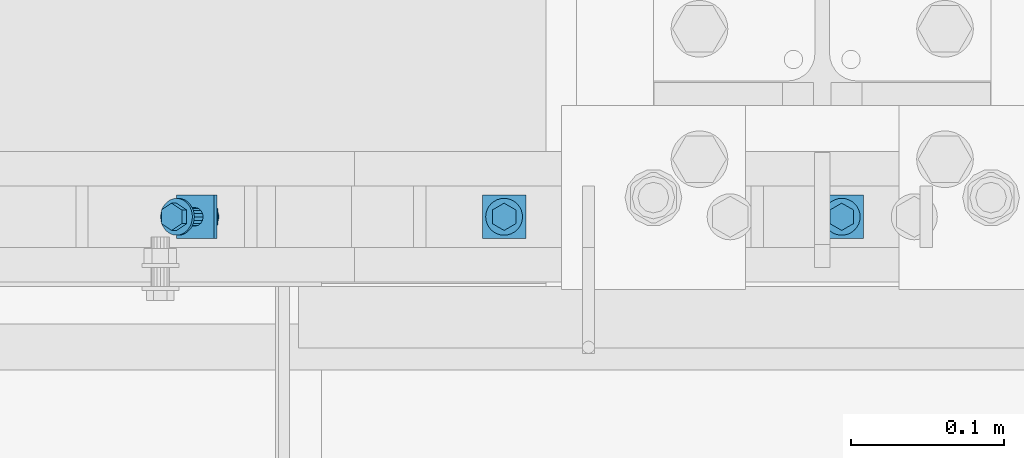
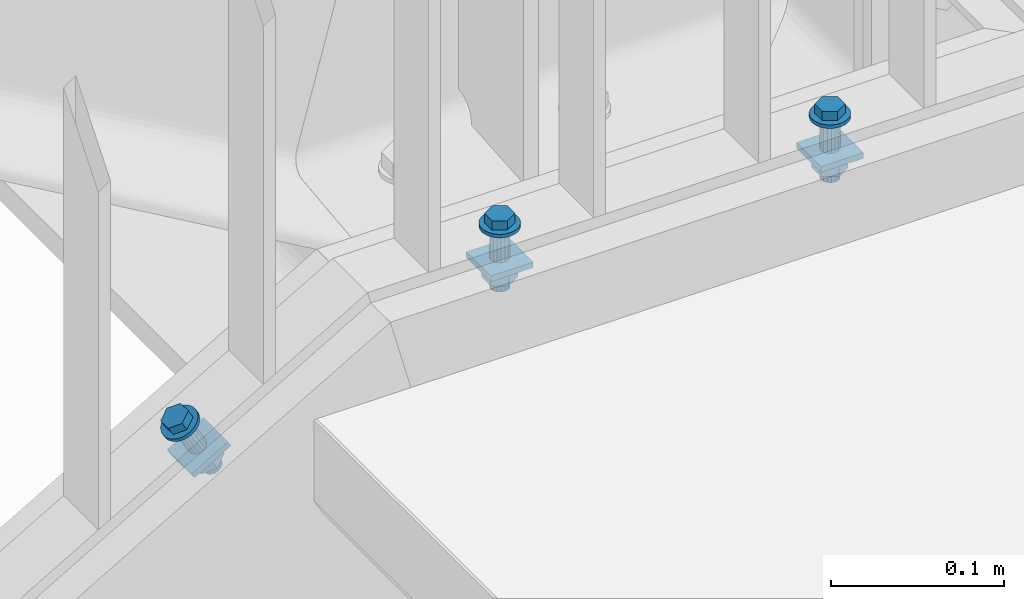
# One storey, part 107 of 145: 3 mechanical fasteners.
"""IFC2X3 building model written with IfcOpenShell, lengths in millimetres."""

from ifc_helpers import new_model, entity, si_unit, converted_unit, origin_with_axes, place, context, project, spatial, faceted_brep, element, save


model = new_model("IFC2X3")

# Units and contexts
model_context = context("Model", 3, precision=1e-09, world=origin_with_axes())
ifc_project = project(units=[si_unit("LENGTHUNIT", "METRE", prefix="MILLI"), si_unit("AREAUNIT", "SQUARE_METRE"), si_unit("VOLUMEUNIT", "CUBIC_METRE"), converted_unit("PLANEANGLEUNIT", "DEGREE", entity("IfcPlaneAngleMeasure", 0.01745329), si_unit("PLANEANGLEUNIT", "RADIAN"), dimensions=[0, 0, 0, 0, 0, 0, 0])], contexts=[model_context])

# Site, building, storey
site_placement = place(None, origin_with_axes())
site = spatial("IfcSite", under=ifc_project, at=site_placement, Name="BZ1 Grund- und Mittelschule 85716 Unterschlei?heim", CompositionType="ELEMENT")
building_placement = place(site_placement, origin_with_axes())
building = spatial("IfcBuilding", under=site, at=building_placement, Name="Struktur 1", CompositionType="ELEMENT")
storey_placement = place(building_placement, origin_with_axes())
storey = spatial("IfcBuildingStorey", under=building, at=storey_placement, Name="Default Storey", CompositionType="ELEMENT", Elevation=0.0)

# Mechanical fasteners
mechanical_fastener_1_placement = place(None, origin_with_axes())
element("IfcMechanicalFastener", 1, at=mechanical_fastener_1_placement, inside=storey, ObjectType="-", NominalDiameter=12.0, NominalLength=45.0, context=model_context, shape_type="Brep", body=[
    faceted_brep([(19780.951508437, -1877.502, 1550.095437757), (19779.694780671, -1877.502, 1552.256603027), (19779.894106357, -1875.160916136, 1552.372511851), (19781.150834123, -1875.160916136, 1550.211346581), (19780.484423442, -1872.909798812, 1552.715784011), (19781.741151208, -1872.909798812, 1550.554618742), (19781.44304637, -1870.835157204, 1553.273227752), (19782.699774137, -1870.835157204, 1551.112062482), (19782.733135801, -1869.016718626, 1554.023420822), (19783.989863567, -1869.016718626, 1551.862255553), (19784.305114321, -1867.524364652, 1554.937533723), (19785.561842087, -1867.524364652, 1552.776368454), (19786.098571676, -1866.41544561, 1555.980437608), (19787.355299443, -1866.41544561, 1553.819272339), (19788.044586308, -1865.732576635, 1557.112054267), (19789.301314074, -1865.732576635, 1554.950888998), (19790.068373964, -1865.502, 1558.288896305), (19791.32510173, -1865.502, 1556.127731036), (19792.092161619, -1865.732576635, 1559.465738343), (19793.348889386, -1865.732576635, 1557.304573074), (19794.038176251, -1866.41544561, 1560.597355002), (19795.294904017, -1866.41544561, 1558.436189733), (19795.831633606, -1867.524364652, 1561.640258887), (19797.088361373, -1867.524364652, 1559.479093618), (19797.403612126, -1869.016718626, 1562.554371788), (19798.660339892, -1869.016718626, 1560.393206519), (19798.693701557, -1870.835157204, 1563.304564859), (19799.950429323, -1870.835157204, 1561.143399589), (19799.652324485, -1872.909798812, 1563.862008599), (19800.909052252, -1872.909798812, 1561.70084333), (19800.24264157, -1875.160916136, 1564.20528076), (19801.499369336, -1875.160916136, 1562.04411549), (19800.441967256, -1877.502, 1564.321189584), (19801.698695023, -1877.502, 1562.160024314), (19800.24264157, -1879.843083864, 1564.20528076), (19801.499369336, -1879.843083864, 1562.04411549), (19799.652324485, -1882.094201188, 1563.862008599), (19800.909052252, -1882.094201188, 1561.70084333), (19798.693701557, -1884.168842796, 1563.304564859), (19799.950429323, -1884.168842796, 1561.143399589), (19797.403612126, -1885.987281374, 1562.554371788), (19798.660339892, -1885.987281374, 1560.393206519), (19795.831633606, -1887.479635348, 1561.640258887), (19797.088361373, -1887.479635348, 1559.479093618), (19794.038176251, -1888.58855439, 1560.597355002), (19795.294904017, -1888.58855439, 1558.436189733), (19792.092161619, -1889.271423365, 1559.465738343), (19793.348889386, -1889.271423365, 1557.304573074), (19790.068373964, -1889.502, 1558.288896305), (19791.32510173, -1889.502, 1556.127731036), (19788.044586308, -1889.271423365, 1557.112054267), (19789.301314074, -1889.271423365, 1554.950888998), (19786.098571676, -1888.58855439, 1555.980437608), (19787.355299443, -1888.58855439, 1553.819272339), (19784.305114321, -1887.479635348, 1554.937533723), (19785.561842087, -1887.479635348, 1552.776368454), (19782.733135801, -1885.987281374, 1554.023420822), (19783.989863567, -1885.987281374, 1551.862255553), (19781.44304637, -1884.168842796, 1553.273227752), (19782.699774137, -1884.168842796, 1551.112062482), (19780.484423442, -1882.094201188, 1552.715784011), (19781.741151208, -1882.094201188, 1550.554618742), (19779.894106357, -1879.843083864, 1552.372511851), (19781.150834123, -1879.843083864, 1550.211346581)], [[[0, 1, 2, 3]], [[3, 2, 4, 5]], [[5, 4, 6, 7]], [[7, 6, 8, 9]], [[9, 8, 10, 11]], [[11, 10, 12, 13]], [[13, 12, 14, 15]], [[15, 14, 16, 17]], [[17, 16, 18, 19]], [[19, 18, 20, 21]], [[21, 20, 22, 23]], [[23, 22, 24, 25]], [[25, 24, 26, 27]], [[27, 26, 28, 29]], [[29, 28, 30, 31]], [[31, 30, 32, 33]], [[33, 32, 34, 35]], [[35, 34, 36, 37]], [[37, 36, 38, 39]], [[39, 38, 40, 41]], [[41, 40, 42, 43]], [[43, 42, 44, 45]], [[45, 44, 46, 47]], [[47, 46, 48, 49]], [[49, 48, 50, 51]], [[51, 50, 52, 53]], [[53, 52, 54, 55]], [[55, 54, 56, 57]], [[57, 56, 58, 59]], [[59, 58, 60, 61]], [[61, 60, 62, 63]], [[63, 62, 1, 0]], [[2, 1, 62, 60, 58, 56, 54, 52, 50, 48, 46, 44, 42, 40, 38, 36, 34, 32, 30, 28, 26, 24, 22, 20, 18, 16, 14, 12, 10, 8, 6, 4]], [[63, 0, 3, 5, 7, 9, 11, 13, 15, 17, 19, 21, 23, 25, 27, 29, 31, 33, 35, 37, 39, 41, 43, 45, 47, 49, 51, 53, 55, 57, 59, 61]]]),
    faceted_brep([(19793.502902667, -1873.0595, 1567.689504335), (19796.720125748, -1873.0595, 1562.156921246), (19790.068373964, -1868.617, 1558.288896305), (19786.851150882, -1868.617, 1563.821479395), (19783.416622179, -1873.0595, 1554.420871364), (19780.199399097, -1873.0595, 1559.953454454), (19783.416622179, -1881.9445, 1554.420871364), (19780.199399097, -1881.9445, 1559.953454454), (19790.068373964, -1886.387, 1558.288896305), (19786.851150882, -1886.387, 1563.821479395), (19796.720125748, -1881.9445, 1562.156921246), (19793.502902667, -1881.9445, 1567.689504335)], [[[0, 1, 2, 3]], [[3, 2, 4, 5]], [[5, 4, 6, 7]], [[7, 6, 8, 9]], [[9, 8, 10, 11]], [[11, 10, 1, 0]], [[3, 5, 7, 9, 11, 0]], [[2, 1, 10, 8, 6, 4]]]),
    faceted_brep([(19797.038066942, -1877.502, 1534.367519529), (19786.138305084, -1877.502, 1553.111584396), (19786.533126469, -1875.205899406, 1553.341174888), (19797.432888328, -1875.205899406, 1534.597110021), (19787.657482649, -1873.259359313, 1553.994993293), (19798.557244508, -1873.259359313, 1535.250928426), (19789.340200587, -1871.958722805, 1554.973501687), (19800.239962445, -1871.958722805, 1536.229436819), (19791.32510173, -1871.502, 1556.127731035), (19802.224863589, -1871.502, 1537.383666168), (19793.310002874, -1871.958722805, 1557.281960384), (19804.209764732, -1871.958722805, 1538.537895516), (19794.992720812, -1873.259359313, 1558.260468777), (19805.89248267, -1873.259359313, 1539.516403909), (19796.117076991, -1875.205899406, 1558.914287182), (19807.01683885, -1875.205899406, 1540.170222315), (19796.511898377, -1877.502, 1559.143877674), (19807.411660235, -1877.502, 1540.399812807), (19796.117076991, -1879.798100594, 1558.914287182), (19807.01683885, -1879.798100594, 1540.170222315), (19794.992720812, -1881.744640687, 1558.260468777), (19805.89248267, -1881.744640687, 1539.516403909), (19793.310002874, -1883.045277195, 1557.281960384), (19804.209764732, -1883.045277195, 1538.537895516), (19791.32510173, -1883.502, 1556.127731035), (19802.224863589, -1883.502, 1537.383666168), (19789.340200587, -1883.045277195, 1554.973501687), (19800.239962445, -1883.045277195, 1536.229436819), (19787.657482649, -1881.744640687, 1553.994993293), (19798.557244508, -1881.744640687, 1535.250928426), (19786.533126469, -1879.798100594, 1553.341174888), (19797.432888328, -1879.798100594, 1534.597110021)], [[[0, 1, 2, 3]], [[3, 2, 4, 5]], [[5, 4, 6, 7]], [[7, 6, 8, 9]], [[9, 8, 10, 11]], [[11, 10, 12, 13]], [[13, 12, 14, 15]], [[15, 14, 16, 17]], [[17, 16, 18, 19]], [[19, 18, 20, 21]], [[21, 20, 22, 23]], [[23, 22, 24, 25]], [[25, 24, 26, 27]], [[27, 26, 28, 29]], [[29, 28, 30, 31]], [[31, 30, 1, 0]], [[2, 1, 30, 28, 26, 24, 22, 20, 18, 16, 14, 12, 10, 8, 6, 4]], [[31, 0, 3, 5, 7, 9, 11, 13, 15, 17, 19, 21, 23, 25, 27, 29]]]),
    faceted_brep([(19814.450260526, -1863.359864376, 1544.492791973), (19816.461024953, -1863.359864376, 1541.034927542), (19792.010231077, -1863.359864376, 1526.816675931), (19789.999466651, -1863.359864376, 1530.274540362), (19792.010231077, -1891.644135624, 1526.816675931), (19789.999466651, -1891.644135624, 1530.274540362), (19816.461024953, -1891.644135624, 1541.034927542), (19814.450260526, -1891.644135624, 1544.492791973)], [[[0, 1, 2, 3]], [[3, 2, 4, 5]], [[5, 4, 6, 7]], [[7, 6, 1, 0]], [[3, 5, 7, 0]], [[2, 1, 6, 4]]]),
    faceted_brep([(19812.1338814, -1872.227, 1538.51867322), (19817.160792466, -1872.227, 1529.874012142), (19809.26253908, -1866.952, 1525.28114066), (19804.235628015, -1866.952, 1533.925801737), (19801.364285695, -1872.227, 1520.688269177), (19796.337374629, -1872.227, 1529.332930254), (19801.364285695, -1882.777, 1520.688269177), (19796.337374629, -1882.777, 1529.332930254), (19809.26253908, -1888.052, 1525.28114066), (19804.235628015, -1888.052, 1533.925801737), (19817.160792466, -1882.777, 1529.874012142), (19812.1338814, -1882.777, 1538.51867322)], [[[0, 1, 2, 3]], [[3, 2, 4, 5]], [[5, 4, 6, 7]], [[7, 6, 8, 9]], [[9, 8, 10, 11]], [[11, 10, 1, 0]], [[3, 5, 7, 9, 11, 0]], [[2, 1, 10, 8, 6, 4]]]),
    faceted_brep([(19807.502677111, -1877.502, 1516.371774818), (19804.075742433, -1877.502, 1522.264994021), (19804.470563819, -1875.205899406, 1522.494584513), (19807.897498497, -1875.205899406, 1516.60136531), (19805.594919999, -1873.259359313, 1523.148402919), (19809.021854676, -1873.259359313, 1517.255183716), (19807.277637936, -1871.958722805, 1524.126911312), (19810.704572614, -1871.958722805, 1518.233692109), (19809.26253908, -1871.502, 1525.28114066), (19812.689473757, -1871.502, 1519.387921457), (19811.247440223, -1871.958722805, 1526.435370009), (19814.674374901, -1871.958722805, 1520.542150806), (19812.930158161, -1873.259359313, 1527.413878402), (19816.357092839, -1873.259359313, 1521.520659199), (19814.054514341, -1875.205899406, 1528.067696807), (19817.481449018, -1875.205899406, 1522.174477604), (19814.449335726, -1877.502, 1528.2972873), (19817.876270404, -1877.502, 1522.404068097), (19814.054514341, -1879.798100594, 1528.067696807), (19817.481449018, -1879.798100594, 1522.174477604), (19812.930158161, -1881.744640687, 1527.413878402), (19816.357092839, -1881.744640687, 1521.520659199), (19811.247440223, -1883.045277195, 1526.435370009), (19814.674374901, -1883.045277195, 1520.542150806), (19809.26253908, -1883.502, 1525.28114066), (19812.689473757, -1883.502, 1519.387921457), (19807.277637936, -1883.045277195, 1524.126911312), (19810.704572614, -1883.045277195, 1518.233692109), (19805.594919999, -1881.744640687, 1523.148402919), (19809.021854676, -1881.744640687, 1517.255183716), (19804.470563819, -1879.798100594, 1522.494584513), (19807.897498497, -1879.798100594, 1516.60136531)], [[[0, 1, 2, 3]], [[3, 2, 4, 5]], [[5, 4, 6, 7]], [[7, 6, 8, 9]], [[9, 8, 10, 11]], [[11, 10, 12, 13]], [[13, 12, 14, 15]], [[15, 14, 16, 17]], [[17, 16, 18, 19]], [[19, 18, 20, 21]], [[21, 20, 22, 23]], [[23, 22, 24, 25]], [[25, 24, 26, 27]], [[27, 26, 28, 29]], [[29, 28, 30, 31]], [[31, 30, 1, 0]], [[2, 1, 30, 28, 26, 24, 22, 20, 18, 16, 14, 12, 10, 8, 6, 4]], [[31, 0, 3, 5, 7, 9, 11, 13, 15, 17, 19, 21, 23, 25, 27, 29]]]),
])
mechanical_fastener_2_placement = place(None, origin_with_axes())
element("IfcMechanicalFastener", 2, at=mechanical_fastener_2_placement, inside=storey, ObjectType="-", NominalDiameter=12.0, NominalLength=45.0, context=model_context, shape_type="Brep", body=[
    faceted_brep([(19991.545893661, -1877.502, 1621.636364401), (19991.545893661, -1877.502, 1624.136364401), (19991.776470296, -1875.160916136, 1624.136364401), (19991.776470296, -1875.160916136, 1621.636364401), (19992.459339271, -1872.909798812, 1624.136364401), (19992.459339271, -1872.909798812, 1621.636364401), (19993.568258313, -1870.835157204, 1624.136364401), (19993.568258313, -1870.835157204, 1621.636364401), (19995.060612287, -1869.016718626, 1624.136364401), (19995.060612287, -1869.016718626, 1621.636364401), (19996.879050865, -1867.524364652, 1624.136364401), (19996.879050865, -1867.524364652, 1621.636364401), (19998.953692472, -1866.41544561, 1624.136364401), (19998.953692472, -1866.41544561, 1621.636364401), (20001.204809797, -1865.732576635, 1624.136364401), (20001.204809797, -1865.732576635, 1621.636364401), (20003.545893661, -1865.502, 1624.136364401), (20003.545893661, -1865.502, 1621.636364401), (20005.886977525, -1865.732576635, 1624.136364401), (20005.886977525, -1865.732576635, 1621.636364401), (20008.138094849, -1866.41544561, 1624.136364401), (20008.138094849, -1866.41544561, 1621.636364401), (20010.212736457, -1867.524364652, 1624.136364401), (20010.212736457, -1867.524364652, 1621.636364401), (20012.031175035, -1869.016718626, 1624.136364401), (20012.031175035, -1869.016718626, 1621.636364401), (20013.523529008, -1870.835157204, 1624.136364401), (20013.523529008, -1870.835157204, 1621.636364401), (20014.632448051, -1872.909798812, 1624.136364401), (20014.632448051, -1872.909798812, 1621.636364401), (20015.315317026, -1875.160916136, 1624.136364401), (20015.315317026, -1875.160916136, 1621.636364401), (20015.545893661, -1877.502, 1624.136364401), (20015.545893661, -1877.502, 1621.636364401), (20015.315317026, -1879.843083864, 1624.136364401), (20015.315317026, -1879.843083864, 1621.636364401), (20014.632448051, -1882.094201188, 1624.136364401), (20014.632448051, -1882.094201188, 1621.636364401), (20013.523529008, -1884.168842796, 1624.136364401), (20013.523529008, -1884.168842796, 1621.636364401), (20012.031175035, -1885.987281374, 1624.136364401), (20012.031175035, -1885.987281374, 1621.636364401), (20010.212736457, -1887.479635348, 1624.136364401), (20010.212736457, -1887.479635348, 1621.636364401), (20008.138094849, -1888.58855439, 1624.136364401), (20008.138094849, -1888.58855439, 1621.636364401), (20005.886977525, -1889.271423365, 1624.136364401), (20005.886977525, -1889.271423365, 1621.636364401), (20003.545893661, -1889.502, 1624.136364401), (20003.545893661, -1889.502, 1621.636364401), (20001.204809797, -1889.271423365, 1624.136364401), (20001.204809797, -1889.271423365, 1621.636364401), (19998.953692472, -1888.58855439, 1624.136364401), (19998.953692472, -1888.58855439, 1621.636364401), (19996.879050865, -1887.479635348, 1624.136364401), (19996.879050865, -1887.479635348, 1621.636364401), (19995.060612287, -1885.987281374, 1624.136364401), (19995.060612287, -1885.987281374, 1621.636364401), (19993.568258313, -1884.168842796, 1624.136364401), (19993.568258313, -1884.168842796, 1621.636364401), (19992.459339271, -1882.094201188, 1624.136364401), (19992.459339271, -1882.094201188, 1621.636364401), (19991.776470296, -1879.843083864, 1624.136364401), (19991.776470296, -1879.843083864, 1621.636364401)], [[[0, 1, 2, 3]], [[3, 2, 4, 5]], [[5, 4, 6, 7]], [[7, 6, 8, 9]], [[9, 8, 10, 11]], [[11, 10, 12, 13]], [[13, 12, 14, 15]], [[15, 14, 16, 17]], [[17, 16, 18, 19]], [[19, 18, 20, 21]], [[21, 20, 22, 23]], [[23, 22, 24, 25]], [[25, 24, 26, 27]], [[27, 26, 28, 29]], [[29, 28, 30, 31]], [[31, 30, 32, 33]], [[33, 32, 34, 35]], [[35, 34, 36, 37]], [[37, 36, 38, 39]], [[39, 38, 40, 41]], [[41, 40, 42, 43]], [[43, 42, 44, 45]], [[45, 44, 46, 47]], [[47, 46, 48, 49]], [[49, 48, 50, 51]], [[51, 50, 52, 53]], [[53, 52, 54, 55]], [[55, 54, 56, 57]], [[57, 56, 58, 59]], [[59, 58, 60, 61]], [[61, 60, 62, 63]], [[63, 62, 1, 0]], [[2, 1, 62, 60, 58, 56, 54, 52, 50, 48, 46, 44, 42, 40, 38, 36, 34, 32, 30, 28, 26, 24, 22, 20, 18, 16, 14, 12, 10, 8, 6, 4]], [[63, 0, 3, 5, 7, 9, 11, 13, 15, 17, 19, 21, 23, 25, 27, 29, 31, 33, 35, 37, 39, 41, 43, 45, 47, 49, 51, 53, 55, 57, 59, 61]]]),
    faceted_brep([(20011.240529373, -1873.0595, 1630.536364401), (20011.240529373, -1873.0595, 1624.136364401), (20003.545893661, -1868.617, 1624.136364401), (20003.545893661, -1868.617, 1630.536364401), (19995.851257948, -1873.0595, 1624.136364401), (19995.851257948, -1873.0595, 1630.536364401), (19995.851257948, -1881.9445, 1624.136364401), (19995.851257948, -1881.9445, 1630.536364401), (20003.545893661, -1886.387, 1624.136364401), (20003.545893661, -1886.387, 1630.536364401), (20011.240529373, -1881.9445, 1624.136364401), (20011.240529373, -1881.9445, 1630.536364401)], [[[0, 1, 2, 3]], [[3, 2, 4, 5]], [[5, 4, 6, 7]], [[7, 6, 8, 9]], [[9, 8, 10, 11]], [[11, 10, 1, 0]], [[3, 5, 7, 9, 11, 0]], [[2, 1, 10, 8, 6, 4]]]),
    faceted_brep([(19997.545893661, -1877.502, 1599.833658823), (19997.545893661, -1877.502, 1621.636364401), (19998.002616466, -1875.205899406, 1621.636364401), (19998.002616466, -1875.205899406, 1599.833658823), (19999.303252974, -1873.259359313, 1621.636364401), (19999.303252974, -1873.259359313, 1599.833658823), (20001.249793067, -1871.958722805, 1621.636364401), (20001.249793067, -1871.958722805, 1599.833658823), (20003.545893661, -1871.502, 1621.636364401), (20003.545893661, -1871.502, 1599.833658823), (20005.841994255, -1871.958722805, 1621.636364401), (20005.841994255, -1871.958722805, 1599.833658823), (20007.788534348, -1873.259359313, 1621.636364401), (20007.788534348, -1873.259359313, 1599.833658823), (20009.089170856, -1875.205899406, 1621.636364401), (20009.089170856, -1875.205899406, 1599.833658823), (20009.545893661, -1877.502, 1621.636364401), (20009.545893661, -1877.502, 1599.833658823), (20009.089170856, -1879.798100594, 1621.636364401), (20009.089170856, -1879.798100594, 1599.833658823), (20007.788534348, -1881.744640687, 1621.636364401), (20007.788534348, -1881.744640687, 1599.833658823), (20005.841994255, -1883.045277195, 1621.636364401), (20005.841994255, -1883.045277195, 1599.833658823), (20003.545893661, -1883.502, 1621.636364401), (20003.545893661, -1883.502, 1599.833658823), (20001.249793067, -1883.045277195, 1621.636364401), (20001.249793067, -1883.045277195, 1599.833658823), (19999.303252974, -1881.744640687, 1621.636364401), (19999.303252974, -1881.744640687, 1599.833658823), (19998.002616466, -1879.798100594, 1621.636364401), (19998.002616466, -1879.798100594, 1599.833658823)], [[[0, 1, 2, 3]], [[3, 2, 4, 5]], [[5, 4, 6, 7]], [[7, 6, 8, 9]], [[9, 8, 10, 11]], [[11, 10, 12, 13]], [[13, 12, 14, 15]], [[15, 14, 16, 17]], [[17, 16, 18, 19]], [[19, 18, 20, 21]], [[21, 20, 22, 23]], [[23, 22, 24, 25]], [[25, 24, 26, 27]], [[27, 26, 28, 29]], [[29, 28, 30, 31]], [[31, 30, 1, 0]], [[2, 1, 30, 28, 26, 24, 22, 20, 18, 16, 14, 12, 10, 8, 6, 4]], [[31, 0, 3, 5, 7, 9, 11, 13, 15, 17, 19, 21, 23, 25, 27, 29]]]),
    faceted_brep([(20017.688029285, -1863.359864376, 1599.833658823), (20017.688029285, -1863.359864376, 1595.833658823), (19989.403758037, -1863.359864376, 1595.833658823), (19989.403758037, -1863.359864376, 1599.833658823), (19989.403758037, -1891.644135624, 1595.833658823), (19989.403758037, -1891.644135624, 1599.833658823), (20017.688029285, -1891.644135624, 1595.833658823), (20017.688029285, -1891.644135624, 1599.833658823)], [[[0, 1, 2, 3]], [[3, 2, 4, 5]], [[5, 4, 6, 7]], [[7, 6, 1, 0]], [[3, 5, 7, 0]], [[2, 1, 6, 4]]]),
    faceted_brep([(20012.682461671, -1872.227, 1595.833658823), (20012.682461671, -1872.227, 1585.833658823), (20003.545893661, -1866.952, 1585.833658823), (20003.545893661, -1866.952, 1595.833658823), (19994.409325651, -1872.227, 1585.833658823), (19994.409325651, -1872.227, 1595.833658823), (19994.409325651, -1882.777, 1585.833658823), (19994.409325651, -1882.777, 1595.833658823), (20003.545893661, -1888.052, 1585.833658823), (20003.545893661, -1888.052, 1595.833658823), (20012.682461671, -1882.777, 1585.833658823), (20012.682461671, -1882.777, 1595.833658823)], [[[0, 1, 2, 3]], [[3, 2, 4, 5]], [[5, 4, 6, 7]], [[7, 6, 8, 9]], [[9, 8, 10, 11]], [[11, 10, 1, 0]], [[3, 5, 7, 9, 11, 0]], [[2, 1, 10, 8, 6, 4]]]),
    faceted_brep([(19997.545893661, -1877.502, 1579.136364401), (19997.545893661, -1877.502, 1585.833658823), (19998.002616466, -1875.205899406, 1585.833658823), (19998.002616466, -1875.205899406, 1579.136364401), (19999.303252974, -1873.259359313, 1585.833658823), (19999.303252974, -1873.259359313, 1579.136364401), (20001.249793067, -1871.958722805, 1585.833658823), (20001.249793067, -1871.958722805, 1579.136364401), (20003.545893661, -1871.502, 1585.833658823), (20003.545893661, -1871.502, 1579.136364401), (20005.841994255, -1871.958722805, 1585.833658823), (20005.841994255, -1871.958722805, 1579.136364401), (20007.788534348, -1873.259359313, 1585.833658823), (20007.788534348, -1873.259359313, 1579.136364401), (20009.089170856, -1875.205899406, 1585.833658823), (20009.089170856, -1875.205899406, 1579.136364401), (20009.545893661, -1877.502, 1585.833658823), (20009.545893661, -1877.502, 1579.136364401), (20009.089170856, -1879.798100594, 1585.833658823), (20009.089170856, -1879.798100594, 1579.136364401), (20007.788534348, -1881.744640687, 1585.833658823), (20007.788534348, -1881.744640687, 1579.136364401), (20005.841994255, -1883.045277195, 1585.833658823), (20005.841994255, -1883.045277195, 1579.136364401), (20003.545893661, -1883.502, 1585.833658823), (20003.545893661, -1883.502, 1579.136364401), (20001.249793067, -1883.045277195, 1585.833658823), (20001.249793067, -1883.045277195, 1579.136364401), (19999.303252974, -1881.744640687, 1585.833658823), (19999.303252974, -1881.744640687, 1579.136364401), (19998.002616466, -1879.798100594, 1585.833658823), (19998.002616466, -1879.798100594, 1579.136364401)], [[[0, 1, 2, 3]], [[3, 2, 4, 5]], [[5, 4, 6, 7]], [[7, 6, 8, 9]], [[9, 8, 10, 11]], [[11, 10, 12, 13]], [[13, 12, 14, 15]], [[15, 14, 16, 17]], [[17, 16, 18, 19]], [[19, 18, 20, 21]], [[21, 20, 22, 23]], [[23, 22, 24, 25]], [[25, 24, 26, 27]], [[27, 26, 28, 29]], [[29, 28, 30, 31]], [[31, 30, 1, 0]], [[2, 1, 30, 28, 26, 24, 22, 20, 18, 16, 14, 12, 10, 8, 6, 4]], [[31, 0, 3, 5, 7, 9, 11, 13, 15, 17, 19, 21, 23, 25, 27, 29]]]),
])
mechanical_fastener_3_placement = place(None, origin_with_axes())
element("IfcMechanicalFastener", 3, at=mechanical_fastener_3_placement, inside=storey, ObjectType="-", NominalDiameter=12.0, NominalLength=45.0, context=model_context, shape_type="Brep", body=[
    faceted_brep([(20211.545893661, -1877.502, 1621.636364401), (20211.545893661, -1877.502, 1624.136364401), (20211.776470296, -1875.160916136, 1624.136364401), (20211.776470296, -1875.160916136, 1621.636364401), (20212.459339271, -1872.909798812, 1624.136364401), (20212.459339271, -1872.909798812, 1621.636364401), (20213.568258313, -1870.835157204, 1624.136364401), (20213.568258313, -1870.835157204, 1621.636364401), (20215.060612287, -1869.016718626, 1624.136364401), (20215.060612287, -1869.016718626, 1621.636364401), (20216.879050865, -1867.524364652, 1624.136364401), (20216.879050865, -1867.524364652, 1621.636364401), (20218.953692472, -1866.41544561, 1624.136364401), (20218.953692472, -1866.41544561, 1621.636364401), (20221.204809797, -1865.732576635, 1624.136364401), (20221.204809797, -1865.732576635, 1621.636364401), (20223.545893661, -1865.502, 1624.136364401), (20223.545893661, -1865.502, 1621.636364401), (20225.886977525, -1865.732576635, 1624.136364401), (20225.886977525, -1865.732576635, 1621.636364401), (20228.138094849, -1866.41544561, 1624.136364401), (20228.138094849, -1866.41544561, 1621.636364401), (20230.212736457, -1867.524364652, 1624.136364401), (20230.212736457, -1867.524364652, 1621.636364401), (20232.031175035, -1869.016718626, 1624.136364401), (20232.031175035, -1869.016718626, 1621.636364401), (20233.523529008, -1870.835157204, 1624.136364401), (20233.523529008, -1870.835157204, 1621.636364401), (20234.632448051, -1872.909798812, 1624.136364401), (20234.632448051, -1872.909798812, 1621.636364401), (20235.315317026, -1875.160916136, 1624.136364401), (20235.315317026, -1875.160916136, 1621.636364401), (20235.545893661, -1877.502, 1624.136364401), (20235.545893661, -1877.502, 1621.636364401), (20235.315317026, -1879.843083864, 1624.136364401), (20235.315317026, -1879.843083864, 1621.636364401), (20234.632448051, -1882.094201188, 1624.136364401), (20234.632448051, -1882.094201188, 1621.636364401), (20233.523529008, -1884.168842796, 1624.136364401), (20233.523529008, -1884.168842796, 1621.636364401), (20232.031175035, -1885.987281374, 1624.136364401), (20232.031175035, -1885.987281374, 1621.636364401), (20230.212736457, -1887.479635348, 1624.136364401), (20230.212736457, -1887.479635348, 1621.636364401), (20228.138094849, -1888.58855439, 1624.136364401), (20228.138094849, -1888.58855439, 1621.636364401), (20225.886977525, -1889.271423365, 1624.136364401), (20225.886977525, -1889.271423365, 1621.636364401), (20223.545893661, -1889.502, 1624.136364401), (20223.545893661, -1889.502, 1621.636364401), (20221.204809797, -1889.271423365, 1624.136364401), (20221.204809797, -1889.271423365, 1621.636364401), (20218.953692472, -1888.58855439, 1624.136364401), (20218.953692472, -1888.58855439, 1621.636364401), (20216.879050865, -1887.479635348, 1624.136364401), (20216.879050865, -1887.479635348, 1621.636364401), (20215.060612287, -1885.987281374, 1624.136364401), (20215.060612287, -1885.987281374, 1621.636364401), (20213.568258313, -1884.168842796, 1624.136364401), (20213.568258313, -1884.168842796, 1621.636364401), (20212.459339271, -1882.094201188, 1624.136364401), (20212.459339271, -1882.094201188, 1621.636364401), (20211.776470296, -1879.843083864, 1624.136364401), (20211.776470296, -1879.843083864, 1621.636364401)], [[[0, 1, 2, 3]], [[3, 2, 4, 5]], [[5, 4, 6, 7]], [[7, 6, 8, 9]], [[9, 8, 10, 11]], [[11, 10, 12, 13]], [[13, 12, 14, 15]], [[15, 14, 16, 17]], [[17, 16, 18, 19]], [[19, 18, 20, 21]], [[21, 20, 22, 23]], [[23, 22, 24, 25]], [[25, 24, 26, 27]], [[27, 26, 28, 29]], [[29, 28, 30, 31]], [[31, 30, 32, 33]], [[33, 32, 34, 35]], [[35, 34, 36, 37]], [[37, 36, 38, 39]], [[39, 38, 40, 41]], [[41, 40, 42, 43]], [[43, 42, 44, 45]], [[45, 44, 46, 47]], [[47, 46, 48, 49]], [[49, 48, 50, 51]], [[51, 50, 52, 53]], [[53, 52, 54, 55]], [[55, 54, 56, 57]], [[57, 56, 58, 59]], [[59, 58, 60, 61]], [[61, 60, 62, 63]], [[63, 62, 1, 0]], [[2, 1, 62, 60, 58, 56, 54, 52, 50, 48, 46, 44, 42, 40, 38, 36, 34, 32, 30, 28, 26, 24, 22, 20, 18, 16, 14, 12, 10, 8, 6, 4]], [[63, 0, 3, 5, 7, 9, 11, 13, 15, 17, 19, 21, 23, 25, 27, 29, 31, 33, 35, 37, 39, 41, 43, 45, 47, 49, 51, 53, 55, 57, 59, 61]]]),
    faceted_brep([(20231.240529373, -1873.0595, 1630.536364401), (20231.240529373, -1873.0595, 1624.136364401), (20223.545893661, -1868.617, 1624.136364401), (20223.545893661, -1868.617, 1630.536364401), (20215.851257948, -1873.0595, 1624.136364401), (20215.851257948, -1873.0595, 1630.536364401), (20215.851257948, -1881.9445, 1624.136364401), (20215.851257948, -1881.9445, 1630.536364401), (20223.545893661, -1886.387, 1624.136364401), (20223.545893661, -1886.387, 1630.536364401), (20231.240529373, -1881.9445, 1624.136364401), (20231.240529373, -1881.9445, 1630.536364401)], [[[0, 1, 2, 3]], [[3, 2, 4, 5]], [[5, 4, 6, 7]], [[7, 6, 8, 9]], [[9, 8, 10, 11]], [[11, 10, 1, 0]], [[3, 5, 7, 9, 11, 0]], [[2, 1, 10, 8, 6, 4]]]),
    faceted_brep([(20217.545893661, -1877.502, 1599.833658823), (20217.545893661, -1877.502, 1621.636364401), (20218.002616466, -1875.205899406, 1621.636364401), (20218.002616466, -1875.205899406, 1599.833658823), (20219.303252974, -1873.259359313, 1621.636364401), (20219.303252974, -1873.259359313, 1599.833658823), (20221.249793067, -1871.958722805, 1621.636364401), (20221.249793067, -1871.958722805, 1599.833658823), (20223.545893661, -1871.502, 1621.636364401), (20223.545893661, -1871.502, 1599.833658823), (20225.841994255, -1871.958722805, 1621.636364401), (20225.841994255, -1871.958722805, 1599.833658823), (20227.788534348, -1873.259359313, 1621.636364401), (20227.788534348, -1873.259359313, 1599.833658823), (20229.089170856, -1875.205899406, 1621.636364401), (20229.089170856, -1875.205899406, 1599.833658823), (20229.545893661, -1877.502, 1621.636364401), (20229.545893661, -1877.502, 1599.833658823), (20229.089170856, -1879.798100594, 1621.636364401), (20229.089170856, -1879.798100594, 1599.833658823), (20227.788534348, -1881.744640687, 1621.636364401), (20227.788534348, -1881.744640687, 1599.833658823), (20225.841994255, -1883.045277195, 1621.636364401), (20225.841994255, -1883.045277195, 1599.833658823), (20223.545893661, -1883.502, 1621.636364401), (20223.545893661, -1883.502, 1599.833658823), (20221.249793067, -1883.045277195, 1621.636364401), (20221.249793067, -1883.045277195, 1599.833658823), (20219.303252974, -1881.744640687, 1621.636364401), (20219.303252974, -1881.744640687, 1599.833658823), (20218.002616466, -1879.798100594, 1621.636364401), (20218.002616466, -1879.798100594, 1599.833658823)], [[[0, 1, 2, 3]], [[3, 2, 4, 5]], [[5, 4, 6, 7]], [[7, 6, 8, 9]], [[9, 8, 10, 11]], [[11, 10, 12, 13]], [[13, 12, 14, 15]], [[15, 14, 16, 17]], [[17, 16, 18, 19]], [[19, 18, 20, 21]], [[21, 20, 22, 23]], [[23, 22, 24, 25]], [[25, 24, 26, 27]], [[27, 26, 28, 29]], [[29, 28, 30, 31]], [[31, 30, 1, 0]], [[2, 1, 30, 28, 26, 24, 22, 20, 18, 16, 14, 12, 10, 8, 6, 4]], [[31, 0, 3, 5, 7, 9, 11, 13, 15, 17, 19, 21, 23, 25, 27, 29]]]),
    faceted_brep([(20237.688029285, -1863.359864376, 1599.833658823), (20237.688029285, -1863.359864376, 1595.833658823), (20209.403758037, -1863.359864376, 1595.833658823), (20209.403758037, -1863.359864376, 1599.833658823), (20209.403758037, -1891.644135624, 1595.833658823), (20209.403758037, -1891.644135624, 1599.833658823), (20237.688029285, -1891.644135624, 1595.833658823), (20237.688029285, -1891.644135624, 1599.833658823)], [[[0, 1, 2, 3]], [[3, 2, 4, 5]], [[5, 4, 6, 7]], [[7, 6, 1, 0]], [[3, 5, 7, 0]], [[2, 1, 6, 4]]]),
    faceted_brep([(20232.682461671, -1872.227, 1595.833658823), (20232.682461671, -1872.227, 1585.833658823), (20223.545893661, -1866.952, 1585.833658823), (20223.545893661, -1866.952, 1595.833658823), (20214.409325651, -1872.227, 1585.833658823), (20214.409325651, -1872.227, 1595.833658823), (20214.409325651, -1882.777, 1585.833658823), (20214.409325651, -1882.777, 1595.833658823), (20223.545893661, -1888.052, 1585.833658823), (20223.545893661, -1888.052, 1595.833658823), (20232.682461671, -1882.777, 1585.833658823), (20232.682461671, -1882.777, 1595.833658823)], [[[0, 1, 2, 3]], [[3, 2, 4, 5]], [[5, 4, 6, 7]], [[7, 6, 8, 9]], [[9, 8, 10, 11]], [[11, 10, 1, 0]], [[3, 5, 7, 9, 11, 0]], [[2, 1, 10, 8, 6, 4]]]),
    faceted_brep([(20217.545893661, -1877.502, 1579.136364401), (20217.545893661, -1877.502, 1585.833658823), (20218.002616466, -1875.205899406, 1585.833658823), (20218.002616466, -1875.205899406, 1579.136364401), (20219.303252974, -1873.259359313, 1585.833658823), (20219.303252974, -1873.259359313, 1579.136364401), (20221.249793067, -1871.958722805, 1585.833658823), (20221.249793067, -1871.958722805, 1579.136364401), (20223.545893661, -1871.502, 1585.833658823), (20223.545893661, -1871.502, 1579.136364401), (20225.841994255, -1871.958722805, 1585.833658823), (20225.841994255, -1871.958722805, 1579.136364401), (20227.788534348, -1873.259359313, 1585.833658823), (20227.788534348, -1873.259359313, 1579.136364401), (20229.089170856, -1875.205899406, 1585.833658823), (20229.089170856, -1875.205899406, 1579.136364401), (20229.545893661, -1877.502, 1585.833658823), (20229.545893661, -1877.502, 1579.136364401), (20229.089170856, -1879.798100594, 1585.833658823), (20229.089170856, -1879.798100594, 1579.136364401), (20227.788534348, -1881.744640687, 1585.833658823), (20227.788534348, -1881.744640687, 1579.136364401), (20225.841994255, -1883.045277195, 1585.833658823), (20225.841994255, -1883.045277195, 1579.136364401), (20223.545893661, -1883.502, 1585.833658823), (20223.545893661, -1883.502, 1579.136364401), (20221.249793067, -1883.045277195, 1585.833658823), (20221.249793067, -1883.045277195, 1579.136364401), (20219.303252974, -1881.744640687, 1585.833658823), (20219.303252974, -1881.744640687, 1579.136364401), (20218.002616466, -1879.798100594, 1585.833658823), (20218.002616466, -1879.798100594, 1579.136364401)], [[[0, 1, 2, 3]], [[3, 2, 4, 5]], [[5, 4, 6, 7]], [[7, 6, 8, 9]], [[9, 8, 10, 11]], [[11, 10, 12, 13]], [[13, 12, 14, 15]], [[15, 14, 16, 17]], [[17, 16, 18, 19]], [[19, 18, 20, 21]], [[21, 20, 22, 23]], [[23, 22, 24, 25]], [[25, 24, 26, 27]], [[27, 26, 28, 29]], [[29, 28, 30, 31]], [[31, 30, 1, 0]], [[2, 1, 30, 28, 26, 24, 22, 20, 18, 16, 14, 12, 10, 8, 6, 4]], [[31, 0, 3, 5, 7, 9, 11, 13, 15, 17, 19, 21, 23, 25, 27, 29]]]),
])

save(model, "model.ifc")
